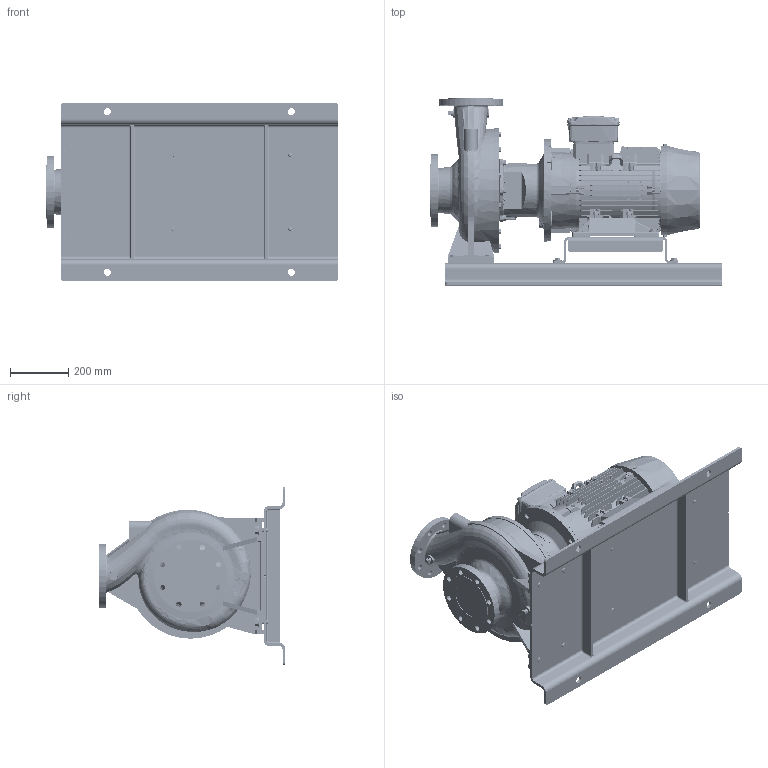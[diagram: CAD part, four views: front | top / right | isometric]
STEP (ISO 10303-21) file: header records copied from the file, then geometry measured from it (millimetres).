
FILE_DESCRIPTION (( 'STEP AP214' ), '1' );
FILE_NAME ('GSD4 100-315_11.0 & 15.0_(160ML)_W21_BP.STEP', '2026-05-08T05:36:19', ( '' ), ( '' ), 'SwSTEP 2.0', 'SolidWorks 2024', '' );
FILE_SCHEMA (( 'AUTOMOTIVE_DESIGN' ));
Length unit declared in the file: millimetre
Products named in the file (13): Parametric Flat Washer_M16; Parametric bolt and washer_SFT-A297B; Parametric bolt_SFT-A303B; CGS11-5254; N7S3 GSDA-733 F1-1832946-00; 160M_L_ALIE3_W21T_B35; Parametric Flat Washer_M12; GSD4 100-315_11.0 & 15.0_(160ML)_W21_BP; Parametric bolt and washer_SFT-A303B; Parametric bolt_SFT-A297B; Parametric bolt_SFT-A353B; 100-315-160M_L_ﾃﾞﾌｫﾙﾄ; Parametric bolt and washer_SFT-A353B
Assembly tree (22 placements, depth 3):
  GSD4 100-315_11.0 & 15.0_(160ML)_W21_BP
    100-315-160M_L_ﾃﾞﾌｫﾙﾄ
    N7S3 GSDA-733 F1-1832946-00
    CGS11-5254
    Parametric bolt and washer_SFT-A297B  x4
      Parametric bolt_SFT-A297B
      Parametric Flat Washer_M12
    Parametric bolt and washer_SFT-A353B  x4
      Parametric bolt_SFT-A353B
      Parametric Flat Washer_M16
    Parametric bolt and washer_SFT-A303B  x4
      Parametric bolt_SFT-A303B
      Parametric Flat Washer_M12
    160M_L_ALIE3_W21T_B35
Bounding box: 1000 x 640 x 610 mm (x, y, z)
Volume: 68138416.4 mm3; surface area: 5137667.1 mm2
Topology: 64 solids, 70 shells, 6611 faces, 17062 edges, 11023 vertices
Faces by surface type: plane 3870, cylinder 1351, cone 633, bspline 496, torus 245, sphere 16
Entity records: 264893 total; most frequent: CARTESIAN_POINT 123153, ORIENTED_EDGE 31100, DIRECTION 26217, EDGE_CURVE 15550, VERTEX_POINT 10054, VECTOR 9691, LINE 9691, AXIS2_PLACEMENT_3D 8263
